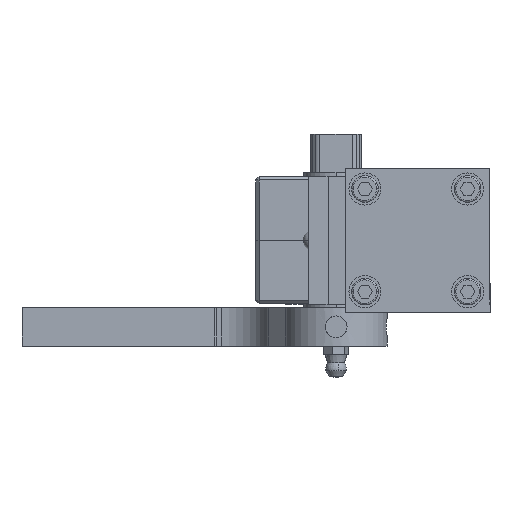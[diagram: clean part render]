
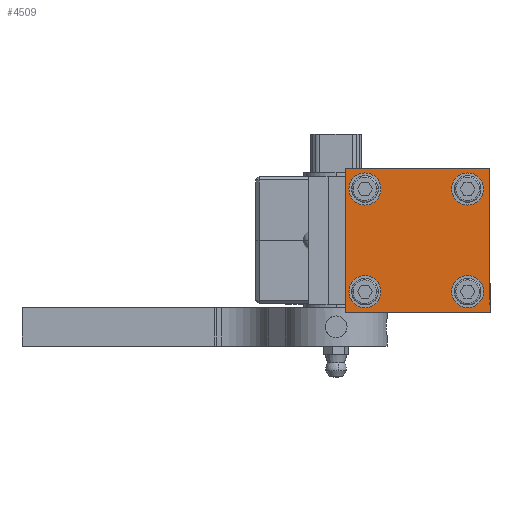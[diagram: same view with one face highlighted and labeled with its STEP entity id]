
A CAD part, front view. The second image highlights one B-rep face of the part: STEP entity #4509.
In plain terms, the highlighted planar face has unit normal (0, -1, 0) as drawn and (0, 0, -1) by its records, which use the part's own axes.
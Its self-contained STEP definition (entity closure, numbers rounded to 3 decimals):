
#99 = CARTESIAN_POINT ( 'NONE',  ( -1., 44.5, 0. ) ) ;
#148 = AXIS2_PLACEMENT_3D ( 'NONE', #7241, #761, #9951 ) ;
#177 = CARTESIAN_POINT ( 'NONE',  ( 10.992, 6., 0. ) ) ;
#271 = AXIS2_PLACEMENT_3D ( 'NONE', #12060, #4195, #13414 ) ;
#533 = VECTOR ( 'NONE', #15877, 1000. ) ;
#761 = DIRECTION ( 'NONE',  ( 0., 0., -1. ) ) ;
#1191 = CIRCLE ( 'NONE', #4646, 5. ) ;
#1389 = VERTEX_POINT ( 'NONE', #7547 ) ;
#1454 = AXIS2_PLACEMENT_3D ( 'NONE', #2376, #11538, #3700 ) ;
#1604 = VECTOR ( 'NONE', #13649, 1000. ) ;
#1616 = CARTESIAN_POINT ( 'NONE',  ( -1., -0.5, 0. ) ) ;
#1789 = DIRECTION ( 'NONE',  ( 1., 0., 0. ) ) ;
#1805 = ORIENTED_EDGE ( 'NONE', *, *, #5715, .T. ) ;
#1807 = FACE_BOUND ( 'NONE', #11719, .T. ) ;
#1816 = CARTESIAN_POINT ( 'NONE',  ( 5.992, 6., 0. ) ) ;
#1918 = ORIENTED_EDGE ( 'NONE', *, *, #4382, .F. ) ;
#2226 = FACE_BOUND ( 'NONE', #13587, .T. ) ;
#2328 = CARTESIAN_POINT ( 'NONE',  ( 33., 6., 0. ) ) ;
#2376 = CARTESIAN_POINT ( 'NONE',  ( 38., 6., 0. ) ) ;
#2383 = ORIENTED_EDGE ( 'NONE', *, *, #8201, .F. ) ;
#2421 = ORIENTED_EDGE ( 'NONE', *, *, #12687, .T. ) ;
#2571 = CARTESIAN_POINT ( 'NONE',  ( 33., 38., 0. ) ) ;
#3068 = VERTEX_POINT ( 'NONE', #177 ) ;
#3149 = DIRECTION ( 'NONE',  ( 1., 0., 0. ) ) ;
#3700 = DIRECTION ( 'NONE',  ( 1., 0., 0. ) ) ;
#3868 = LINE ( 'NONE', #12311, #1604 ) ;
#4195 = DIRECTION ( 'NONE',  ( 0., 0., 1. ) ) ;
#4290 = VERTEX_POINT ( 'NONE', #1616 ) ;
#4320 = EDGE_CURVE ( 'NONE', #16199, #11085, #1191, .T. ) ;
#4371 = CARTESIAN_POINT ( 'NONE',  ( 22., -0.5, 0. ) ) ;
#4382 = EDGE_CURVE ( 'NONE', #7949, #6222, #3868, .T. ) ;
#4463 = CIRCLE ( 'NONE', #271, 5. ) ;
#4509 = ADVANCED_FACE ( 'NONE', ( #5277, #12296, #2226, #1807, #15391 ), #16551, .T. ) ;
#4579 = CIRCLE ( 'NONE', #16437, 5. ) ;
#4646 = AXIS2_PLACEMENT_3D ( 'NONE', #5626, #14842, #6967 ) ;
#4721 = ORIENTED_EDGE ( 'NONE', *, *, #15920, .T. ) ;
#4838 = CARTESIAN_POINT ( 'NONE',  ( 38., 38., 0. ) ) ;
#5158 = CARTESIAN_POINT ( 'NONE',  ( 44., -0.5, 0. ) ) ;
#5277 = FACE_BOUND ( 'NONE', #15747, .T. ) ;
#5626 = CARTESIAN_POINT ( 'NONE',  ( 38., 6., 0. ) ) ;
#5715 = EDGE_CURVE ( 'NONE', #14132, #1389, #4463, .T. ) ;
#5824 = DIRECTION ( 'NONE',  ( 0., 0., 1. ) ) ;
#5936 = CIRCLE ( 'NONE', #9869, 5. ) ;
#6166 = DIRECTION ( 'NONE',  ( 1., 0., 0. ) ) ;
#6222 = VERTEX_POINT ( 'NONE', #99 ) ;
#6349 = DIRECTION ( 'NONE',  ( 0., 1., 0. ) ) ;
#6472 = DIRECTION ( 'NONE',  ( 0., 0., 1. ) ) ;
#6624 = ORIENTED_EDGE ( 'NONE', *, *, #14042, .F. ) ;
#6967 = DIRECTION ( 'NONE',  ( 1., 0., 0. ) ) ;
#7088 = CARTESIAN_POINT ( 'NONE',  ( 38., 38., 0. ) ) ;
#7241 = CARTESIAN_POINT ( 'NONE',  ( 22., 22., 0. ) ) ;
#7249 = ORIENTED_EDGE ( 'NONE', *, *, #4320, .T. ) ;
#7256 = VERTEX_POINT ( 'NONE', #2571 ) ;
#7381 = ORIENTED_EDGE ( 'NONE', *, *, #15879, .T. ) ;
#7498 = CIRCLE ( 'NONE', #8219, 5. ) ;
#7547 = CARTESIAN_POINT ( 'NONE',  ( 1., 38., 0. ) ) ;
#7949 = VERTEX_POINT ( 'NONE', #12761 ) ;
#7957 = CARTESIAN_POINT ( 'NONE',  ( -1., 22., 0. ) ) ;
#8063 = CIRCLE ( 'NONE', #13759, 5. ) ;
#8201 = EDGE_CURVE ( 'NONE', #6222, #4290, #14114, .T. ) ;
#8219 = AXIS2_PLACEMENT_3D ( 'NONE', #14349, #6472, #15686 ) ;
#8412 = DIRECTION ( 'NONE',  ( 1., 0., 0. ) ) ;
#8560 = ORIENTED_EDGE ( 'NONE', *, *, #14090, .T. ) ;
#9121 = LINE ( 'NONE', #4371, #12200 ) ;
#9346 = ORIENTED_EDGE ( 'NONE', *, *, #11495, .T. ) ;
#9568 = EDGE_CURVE ( 'NONE', #7256, #13964, #10948, .T. ) ;
#9690 = CIRCLE ( 'NONE', #1454, 5. ) ;
#9869 = AXIS2_PLACEMENT_3D ( 'NONE', #4838, #14059, #6166 ) ;
#9951 = DIRECTION ( 'NONE',  ( -1., 0., 0. ) ) ;
#10018 = EDGE_LOOP ( 'NONE', ( #1805, #4721 ) ) ;
#10109 = EDGE_CURVE ( 'NONE', #4290, #12852, #9121, .T. ) ;
#10794 = CARTESIAN_POINT ( 'NONE',  ( 0.992, 6., 0. ) ) ;
#10948 = CIRCLE ( 'NONE', #16257, 5. ) ;
#11000 = DIRECTION ( 'NONE',  ( 0., 0., 1. ) ) ;
#11085 = VERTEX_POINT ( 'NONE', #2328 ) ;
#11215 = EDGE_LOOP ( 'NONE', ( #6624, #12445, #2383, #1918 ) ) ;
#11495 = EDGE_CURVE ( 'NONE', #11085, #16199, #9690, .T. ) ;
#11512 = ORIENTED_EDGE ( 'NONE', *, *, #9568, .T. ) ;
#11538 = DIRECTION ( 'NONE',  ( 0., 0., 1. ) ) ;
#11719 = EDGE_LOOP ( 'NONE', ( #7249, #9346 ) ) ;
#11789 = CARTESIAN_POINT ( 'NONE',  ( 11., 38., 0. ) ) ;
#12060 = CARTESIAN_POINT ( 'NONE',  ( 6., 38., 0. ) ) ;
#12200 = VECTOR ( 'NONE', #1789, 1000. ) ;
#12296 = FACE_BOUND ( 'NONE', #10018, .T. ) ;
#12311 = CARTESIAN_POINT ( 'NONE',  ( 22., 44.5, 0. ) ) ;
#12445 = ORIENTED_EDGE ( 'NONE', *, *, #10109, .F. ) ;
#12687 = EDGE_CURVE ( 'NONE', #13964, #7256, #5936, .T. ) ;
#12750 = CARTESIAN_POINT ( 'NONE',  ( 43., 38., 0. ) ) ;
#12761 = CARTESIAN_POINT ( 'NONE',  ( 44., 44.5, 0. ) ) ;
#12852 = VERTEX_POINT ( 'NONE', #5158 ) ;
#13023 = VERTEX_POINT ( 'NONE', #10794 ) ;
#13414 = DIRECTION ( 'NONE',  ( 1., 0., 0. ) ) ;
#13587 = EDGE_LOOP ( 'NONE', ( #2421, #11512 ) ) ;
#13649 = DIRECTION ( 'NONE',  ( -1., 0., 0. ) ) ;
#13729 = CARTESIAN_POINT ( 'NONE',  ( 6., 38., 0. ) ) ;
#13759 = AXIS2_PLACEMENT_3D ( 'NONE', #1816, #11000, #3149 ) ;
#13964 = VERTEX_POINT ( 'NONE', #12750 ) ;
#14042 = EDGE_CURVE ( 'NONE', #12852, #7949, #15327, .T. ) ;
#14059 = DIRECTION ( 'NONE',  ( 0., 0., 1. ) ) ;
#14090 = EDGE_CURVE ( 'NONE', #13023, #3068, #7498, .T. ) ;
#14114 = LINE ( 'NONE', #7957, #533 ) ;
#14132 = VERTEX_POINT ( 'NONE', #11789 ) ;
#14349 = CARTESIAN_POINT ( 'NONE',  ( 5.992, 6., 0. ) ) ;
#14842 = DIRECTION ( 'NONE',  ( 0., 0., 1. ) ) ;
#15040 = DIRECTION ( 'NONE',  ( 1., 0., 0. ) ) ;
#15327 = LINE ( 'NONE', #15575, #15754 ) ;
#15391 = FACE_OUTER_BOUND ( 'NONE', #11215, .T. ) ;
#15575 = CARTESIAN_POINT ( 'NONE',  ( 44., 22., 0. ) ) ;
#15686 = DIRECTION ( 'NONE',  ( 1., 0., 0. ) ) ;
#15747 = EDGE_LOOP ( 'NONE', ( #7381, #8560 ) ) ;
#15754 = VECTOR ( 'NONE', #6349, 1000. ) ;
#15877 = DIRECTION ( 'NONE',  ( 0., -1., 0. ) ) ;
#15879 = EDGE_CURVE ( 'NONE', #3068, #13023, #8063, .T. ) ;
#15920 = EDGE_CURVE ( 'NONE', #1389, #14132, #4579, .T. ) ;
#16199 = VERTEX_POINT ( 'NONE', #16846 ) ;
#16257 = AXIS2_PLACEMENT_3D ( 'NONE', #7088, #16344, #8412 ) ;
#16344 = DIRECTION ( 'NONE',  ( 0., 0., 1. ) ) ;
#16437 = AXIS2_PLACEMENT_3D ( 'NONE', #13729, #5824, #15040 ) ;
#16551 = PLANE ( 'NONE',  #148 ) ;
#16846 = CARTESIAN_POINT ( 'NONE',  ( 43., 6., 0. ) ) ;
